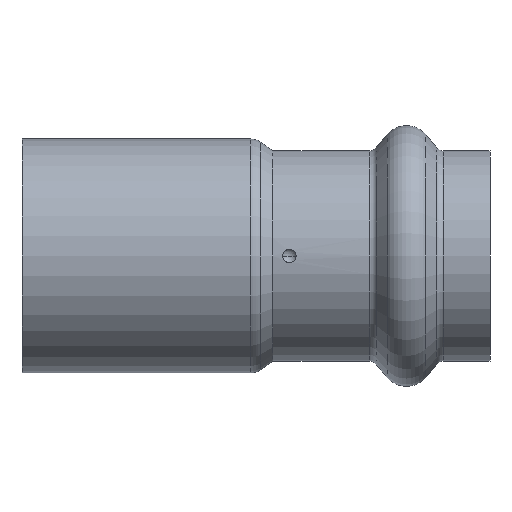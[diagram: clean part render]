
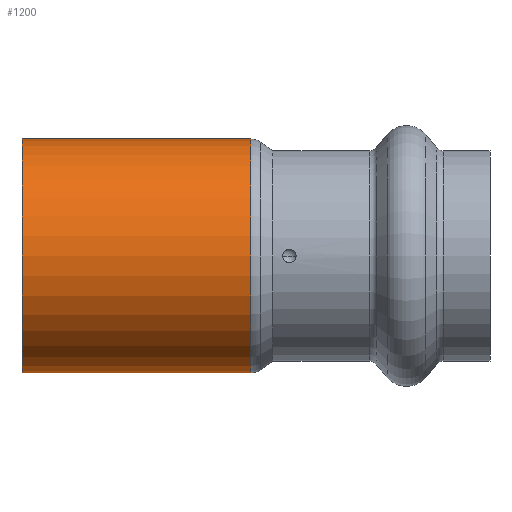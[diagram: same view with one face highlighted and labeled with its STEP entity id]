
A CAD part, front view. The second image highlights one B-rep face of the part: STEP entity #1200.
In plain terms, the highlighted cylindrical face has radius 14 mm (diameter 28 mm), a partial arc.
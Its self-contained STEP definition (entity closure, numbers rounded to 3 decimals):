
#2 = CARTESIAN_POINT ( 'NONE',  ( 27.369, 0., 14. ) ) ;
#7 = DIRECTION ( 'NONE',  ( -1., 0., 0. ) ) ;
#16 = ORIENTED_EDGE ( 'NONE', *, *, #1079, .T. ) ;
#97 = DIRECTION ( 'NONE',  ( 0., 0., 1. ) ) ;
#109 = FACE_OUTER_BOUND ( 'NONE', #1397, .T. ) ;
#281 = DIRECTION ( 'NONE',  ( -1., 0., 0. ) ) ;
#307 = LINE ( 'NONE', #809, #1313 ) ;
#488 = ORIENTED_EDGE ( 'NONE', *, *, #988, .F. ) ;
#489 = CIRCLE ( 'NONE', #1384, 14. ) ;
#496 = CARTESIAN_POINT ( 'NONE',  ( -4.079, 0., 0. ) ) ;
#526 = LINE ( 'NONE', #887, #1155 ) ;
#620 = EDGE_CURVE ( 'NONE', #934, #1436, #307, .T. ) ;
#629 = CARTESIAN_POINT ( 'NONE',  ( 27.369, 0., -14. ) ) ;
#654 = VERTEX_POINT ( 'NONE', #2 ) ;
#664 = AXIS2_PLACEMENT_3D ( 'NONE', #798, #1484, #690 ) ;
#681 = EDGE_CURVE ( 'NONE', #934, #654, #839, .T. ) ;
#690 = DIRECTION ( 'NONE',  ( 0., 0., -1. ) ) ;
#708 = ORIENTED_EDGE ( 'NONE', *, *, #620, .F. ) ;
#718 = CARTESIAN_POINT ( 'NONE',  ( 0., 0., -14. ) ) ;
#798 = CARTESIAN_POINT ( 'NONE',  ( 27.369, 0., 0. ) ) ;
#809 = CARTESIAN_POINT ( 'NONE',  ( -4.079, 0., -14. ) ) ;
#839 = CIRCLE ( 'NONE', #664, 14. ) ;
#884 = DIRECTION ( 'NONE',  ( -1., 0., 0. ) ) ;
#887 = CARTESIAN_POINT ( 'NONE',  ( -4.079, 0., 14. ) ) ;
#897 = DIRECTION ( 'NONE',  ( 0., 0., 1. ) ) ;
#909 = CARTESIAN_POINT ( 'NONE',  ( 0., 0., 14. ) ) ;
#934 = VERTEX_POINT ( 'NONE', #629 ) ;
#988 = EDGE_CURVE ( 'NONE', #1436, #1470, #489, .T. ) ;
#1011 = CYLINDRICAL_SURFACE ( 'NONE', #1063, 14. ) ;
#1063 = AXIS2_PLACEMENT_3D ( 'NONE', #496, #1426, #97 ) ;
#1079 = EDGE_CURVE ( 'NONE', #654, #1470, #526, .T. ) ;
#1155 = VECTOR ( 'NONE', #281, 1000. ) ;
#1200 = ADVANCED_FACE ( 'NONE', ( #109 ), #1011, .T. ) ;
#1203 = ORIENTED_EDGE ( 'NONE', *, *, #681, .T. ) ;
#1313 = VECTOR ( 'NONE', #7, 1000. ) ;
#1384 = AXIS2_PLACEMENT_3D ( 'NONE', #1447, #884, #897 ) ;
#1397 = EDGE_LOOP ( 'NONE', ( #708, #1203, #16, #488 ) ) ;
#1426 = DIRECTION ( 'NONE',  ( -1., 0., 0. ) ) ;
#1436 = VERTEX_POINT ( 'NONE', #718 ) ;
#1447 = CARTESIAN_POINT ( 'NONE',  ( 0., 0., 0. ) ) ;
#1470 = VERTEX_POINT ( 'NONE', #909 ) ;
#1484 = DIRECTION ( 'NONE',  ( -1., 0., 0. ) ) ;
